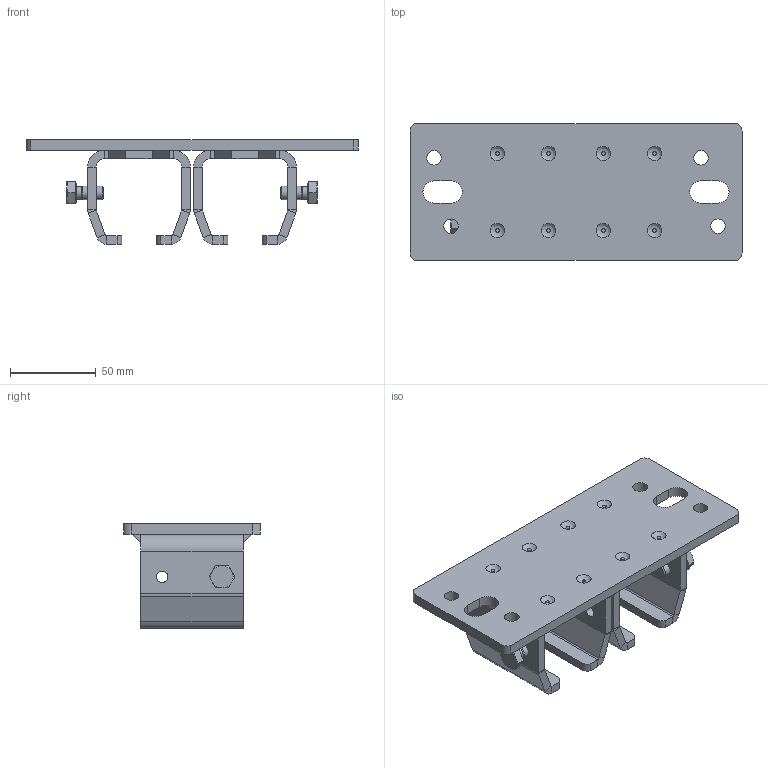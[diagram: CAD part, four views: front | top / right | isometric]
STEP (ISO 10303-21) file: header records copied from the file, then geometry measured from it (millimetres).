
FILE_DESCRIPTION(/* description */ ('Doppelte Deckenbefestigung Nr.2'),/* implementation_level */ '2;1');
FILE_NAME(/* name */ 'Q:\sge-ma\Produktmanagement-STB\STB\Workspace\stp\010333050.stp',/* time_stamp */ '2015-03-10T13:02:34+01:00',/* author */ ('avschreier'),/* organization */ (''),/* preprocessor_version */ 'ST-DEVELOPER v15.6',/* originating_system */ 'Autodesk Inventor 2015',/* authorisation */ '');
FILE_SCHEMA (('CONFIG_CONTROL_DESIGN'));
Length unit declared in the file: millimetre
Products named in the file (5): 010333050_Schweißnähte; 337000246; 335140020; DIN_EN_ISO_4017-M8x16_en; 010333050
Bounding box: 194 x 80 x 61 mm (x, y, z)
Volume: 193515.5 mm3; surface area: 83901.1 mm2
Topology: 13 solids, 13 shells, 264 faces, 562 edges, 344 vertices
Faces by surface type: plane 170, cylinder 62, bspline 16, cone 16
Full cylindrical faces by diameter (mm): 6.647 x6, 6.8 x6, 7.323 x2, 8 x2, 8.5 x4, 11.4 x2
Entity records: 5186 total; most frequent: CARTESIAN_POINT 1260, DIRECTION 810, ORIENTED_EDGE 722, EDGE_CURVE 361, AXIS2_PLACEMENT_3D 303, VERTEX_POINT 237, EDGE_LOOP 236, LINE 204
